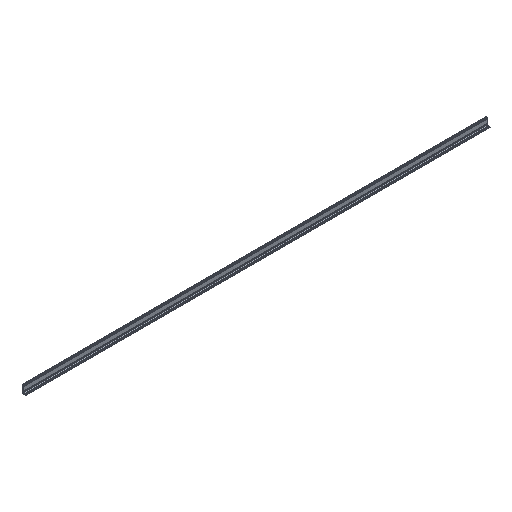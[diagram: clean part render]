
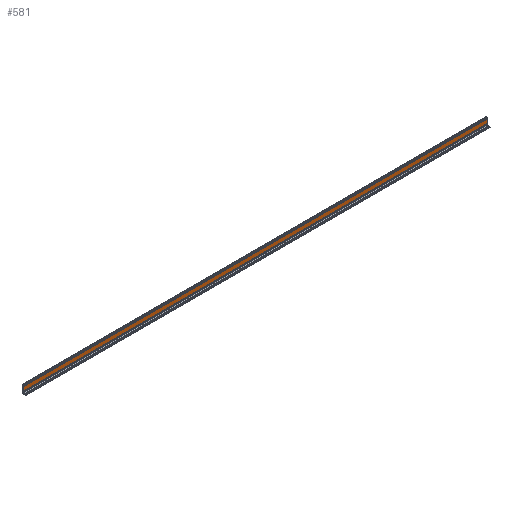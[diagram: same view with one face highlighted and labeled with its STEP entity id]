
A CAD part, isometric view. The second image highlights one B-rep face of the part: STEP entity #581.
In plain terms, the highlighted planar face has unit normal (0, -1, 0).
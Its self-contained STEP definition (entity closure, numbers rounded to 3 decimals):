
#453 = EDGE_CURVE( '', #635, #763, #1143, .T. );
#471 = VERTEX_POINT( '', #1162 );
#581 = ADVANCED_FACE( '', ( #1285 ), #1286, .T. );
#591 = EDGE_CURVE( '', #635, #471, #1296, .T. );
#635 = VERTEX_POINT( '', #1344 );
#705 = EDGE_CURVE( '', #471, #923, #1418, .T. );
#763 = VERTEX_POINT( '', #1482 );
#801 = EDGE_CURVE( '', #923, #763, #1523, .T. );
#923 = VERTEX_POINT( '', #1660 );
#1143 = LINE( '', #1920, #1921 );
#1162 = CARTESIAN_POINT( '', ( 0., -13., 15.5 ) );
#1285 = FACE_OUTER_BOUND( '', #2106, .T. );
#1286 = PLANE( '', #2107 );
#1296 = LINE( '', #2125, #2126 );
#1344 = CARTESIAN_POINT( '', ( 0., -13., 60. ) );
#1418 = LINE( '', #2304, #2305 );
#1482 = CARTESIAN_POINT( '', ( 3500., -13., 60. ) );
#1523 = LINE( '', #2460, #2461 );
#1660 = CARTESIAN_POINT( '', ( 3500., -13., 15.5 ) );
#1920 = CARTESIAN_POINT( '', ( 0., -13., 60. ) );
#1921 = VECTOR( '', #2904, 1. );
#2106 = EDGE_LOOP( '', ( #3094, #3095, #3096, #3097 ) );
#2107 = AXIS2_PLACEMENT_3D( '', #3098, #3099, #3100 );
#2125 = CARTESIAN_POINT( '', ( 0., -13., 60. ) );
#2126 = VECTOR( '', #3107, 1. );
#2304 = CARTESIAN_POINT( '', ( 0., -13., 15.5 ) );
#2305 = VECTOR( '', #3202, 1. );
#2460 = CARTESIAN_POINT( '', ( 3500., -13., 60. ) );
#2461 = VECTOR( '', #3345, 1. );
#2904 = DIRECTION( '', ( 1., 0., 0. ) );
#3094 = ORIENTED_EDGE( '', *, *, #801, .T. );
#3095 = ORIENTED_EDGE( '', *, *, #453, .F. );
#3096 = ORIENTED_EDGE( '', *, *, #591, .T. );
#3097 = ORIENTED_EDGE( '', *, *, #705, .T. );
#3098 = CARTESIAN_POINT( '', ( 0., -13., 15.5 ) );
#3099 = DIRECTION( '', ( 0., -1., 0. ) );
#3100 = DIRECTION( '', ( 0., 0., -1. ) );
#3107 = DIRECTION( '', ( 0., 0., -1. ) );
#3202 = DIRECTION( '', ( 1., 0., 0. ) );
#3345 = DIRECTION( '', ( 0., 0., 1. ) );
